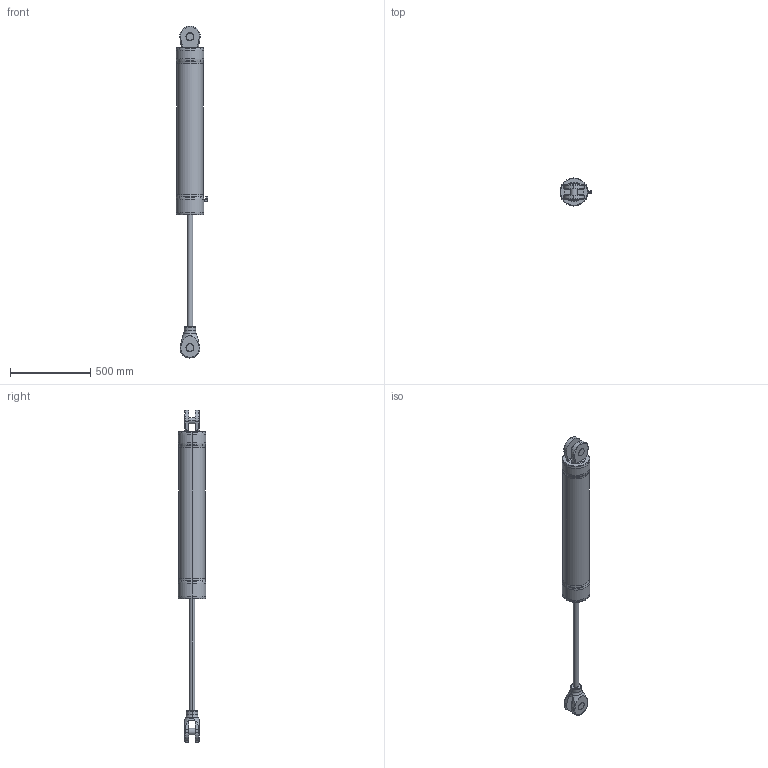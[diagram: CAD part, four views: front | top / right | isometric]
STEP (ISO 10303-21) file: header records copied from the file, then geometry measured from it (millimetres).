
FILE_DESCRIPTION (( 'STEP AP203' ), '1' );
FILE_NAME ('CL_115_S_0700.STEP', '2018-05-30T12:34:19', ( 'utente' ), ( 'Hewlett-Packard Company' ), 'SwSTEP 2.0', 'SolidWorks 2015', '' );
FILE_SCHEMA (( 'CONFIG_CONTROL_DESIGN' ));
Length unit declared in the file: millimetre
Products named in the file (1): CL_115_S_0700
Bounding box: 199.64 x 174 x 2073.81 mm (x, y, z)
Volume: 25230886.3 mm3; surface area: 916593.6 mm2
Topology: 1 solids, 5 shells, 274 faces, 617 edges, 371 vertices
Faces by surface type: plane 101, cylinder 100, cone 46, torus 27
Entity records: 8563 total; most frequent: CARTESIAN_POINT 2273, DIRECTION 1402, ORIENTED_EDGE 1230, EDGE_CURVE 615, AXIS2_PLACEMENT_3D 572, VERTEX_POINT 371, EDGE_LOOP 302, CIRCLE 297
